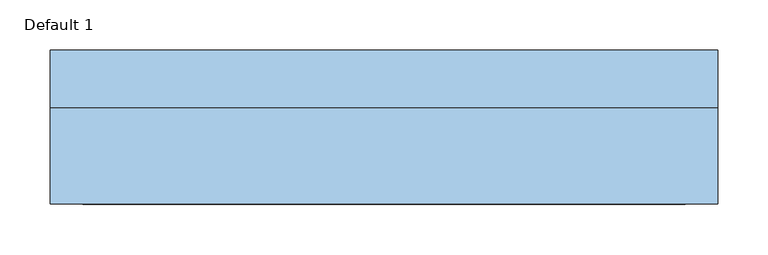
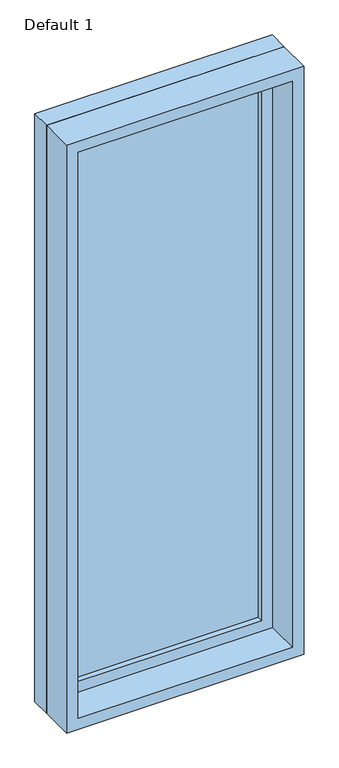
"""IFC4 building model written with IfcOpenShell, lengths in millimetres: window geometry, Planitar-Fixed : Default 1."""

from ifc_helpers import new_model, si_unit, frame, origin, place, context, project, spatial, polyline, outline, extrude, source, transform, mapped, element, save


def default_1_89811e44(model_context):
    return source(origin(), model_context, "Body", "SweptSolid", [
        extrude(outline(polyline([(2622.6, -311.2), (933.4, -311.2), (933.4, 311.2), (2622.6, 311.2), (2622.6, -311.2)]), holes=[polyline([(2578.6, -267.2), (2578.6, 267.2), (977.4, 267.2), (977.4, -267.2), (2578.6, -267.2)])]), frame((0.0, 32.5, 0.0), z_axis=(0.0, 1.0, 0.0), x_axis=(0.0, 0.0, 1.0)), (0.0, 0.0, 1.0), 44.0),
        extrude(outline(polyline([(2641.6, -330.2), (914.4, -330.2), (914.4, 330.2), (2641.6, 330.2), (2641.6, -330.2)]), holes=[polyline([(2622.6, -311.2), (2622.6, 311.2), (933.4, 311.2), (933.4, -311.2), (2622.6, -311.2)])]), frame((0.0, 32.5, 0.0), z_axis=(0.0, 1.0, 0.0), x_axis=(0.0, 0.0, 1.0)), (0.0, 0.0, 1.0), 56.7),
        extrude(outline(polyline([(2641.6, -330.2), (914.4, -330.2), (914.4, 330.2), (2641.6, 330.2), (2641.6, -330.2)]), holes=[polyline([(2609.6, -298.2), (2609.6, 298.2), (946.4, 298.2), (946.4, -298.2), (2609.6, -298.2)])]), frame((0.0, -63.2, 0.0), z_axis=(0.0, 1.0, 0.0), x_axis=(0.0, 0.0, 1.0)), (0.0, 0.0, 1.0), 95.7),
        extrude(outline(polyline([(-267.2, 60.5), (267.2, 60.5), (267.2, 48.5), (-267.2, 48.5), (-267.2, 60.5)])), frame((0.0, 0.0, 977.4), z_axis=(0.0, 0.0, 1.0), x_axis=(1.0, 0.0, 0.0)), (0.0, 0.0, 1.0), 1601.2),
    ])


if __name__ == "__main__":
    model = new_model("IFC4")
    model_context = context("Model", 3, world=origin())
    ifc_project = project(units=[si_unit("LENGTHUNIT", "METRE", prefix="MILLI")], contexts=[model_context])
    site = spatial("IfcSite", under=ifc_project)
    building = spatial("IfcBuilding", under=site)
    placement = place(None, origin())
    default_1_shape = default_1_89811e44(model_context)
    element("IfcWindow", 1, ObjectType="Planitar-Fixed : Default 1", at=placement, inside=building, context=model_context, shape_type="MappedRepresentation", body=[
        mapped(default_1_shape, transform((0.0, 0.0, 0.0), x_axis=(1.0, 0.0, 0.0), y_axis=(0.0, 1.0, 0.0), z_axis=(0.0, 0.0, 1.0))),
    ])
    save(model, "model.ifc")
